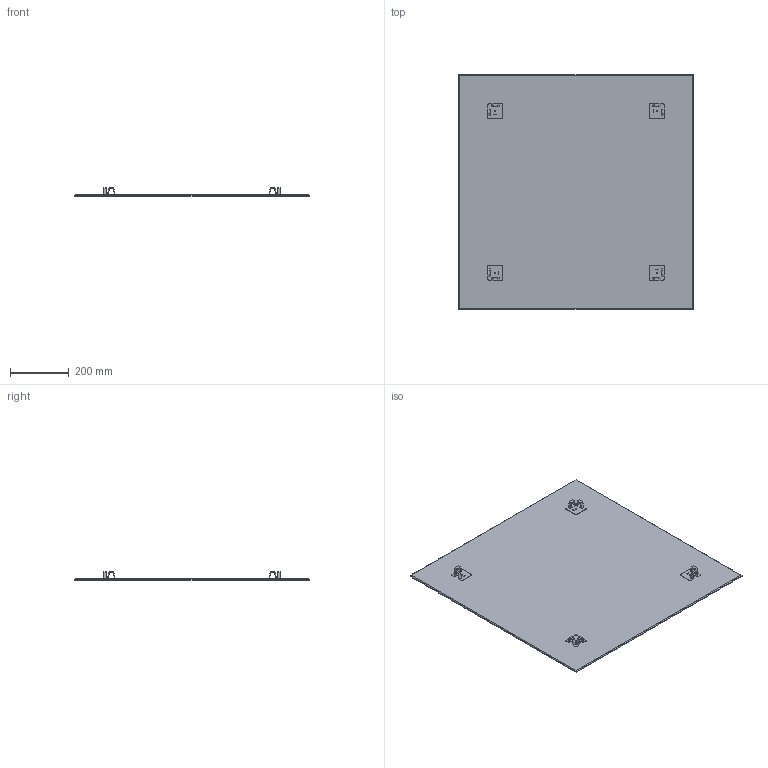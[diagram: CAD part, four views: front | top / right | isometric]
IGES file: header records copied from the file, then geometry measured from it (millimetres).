
Start section: SolidWorks IGES file using analytic representation for surfaces
Global section: file name: G:\Projects\New project\For Marketing\IGS\IGS\2016-3-18\B01001002VW.IGS; native system: SolidWorks 2010; preprocessor: SolidWorks 2010; author: linda; date: 160315.151109; units: millimetre
Bounding box: 800 x 800 x 28 mm (x, y, z)
Surface area: 1309407.9 mm2 (no closed solid volume)
Topology: 0 solids, 0 shells, 100 faces, 1160 edges, 1160 vertices
Faces by surface type: bspline 92, revolution 8
